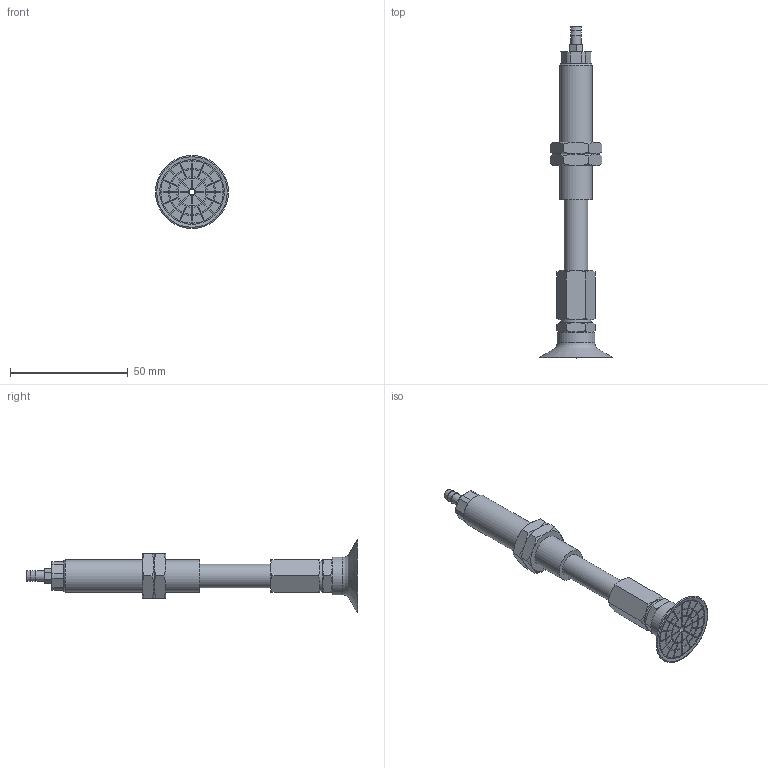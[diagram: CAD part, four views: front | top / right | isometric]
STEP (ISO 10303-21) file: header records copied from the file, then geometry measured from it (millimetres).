
FILE_DESCRIPTION(('STEP AP203'),'1');
FILE_NAME('-T.stp','2025-08-26T09:10:17',(' '),(' '),'Spatial InterOp 3D',' ',' ');
FILE_SCHEMA(('CONFIG_CONTROL_DESIGN'));
Length unit declared in the file: millimetre
Products named in the file (8): BNABPATS-30B-30-※-T; ADAPTER; NAPATS-30B-30--M; NAPATS-30B-30--F; Nut-25-S; TN-PA-30B-M6; T; BPAG-30B-※_3D
Assembly tree (8 placements, depth 2):
  BNABPATS-30B-30-※-T
    ADAPTER
    NAPATS-30B-30--M
    NAPATS-30B-30--F
    Nut-25-S  x2
    TN-PA-30B-M6
    T
    BPAG-30B-※_3D
Bounding box: 31.04 x 141.2 x 31.04 mm (x, y, z)
Volume: 20458.1 mm3; surface area: 15669 mm2
Topology: 8 solids, 8 shells, 366 faces, 847 edges, 542 vertices
Faces by surface type: plane 197, cylinder 100, cone 63, torus 6
Full cylindrical faces by diameter (mm): 2.5 x1, 3 x4, 4.134 x1, 4.3 x1, 4.917 x1, 5 x1, 6 x3, 10 x4, 12.917 x2, 13 x1, 14 x1, 16 x1, 27.5 x1
Entity records: 10167 total; most frequent: CARTESIAN_POINT 1994, DIRECTION 1657, ORIENTED_EDGE 1502, EDGE_CURVE 751, AXIS2_PLACEMENT_3D 626, VERTEX_POINT 507, EDGE_LOOP 442, LINE 405
